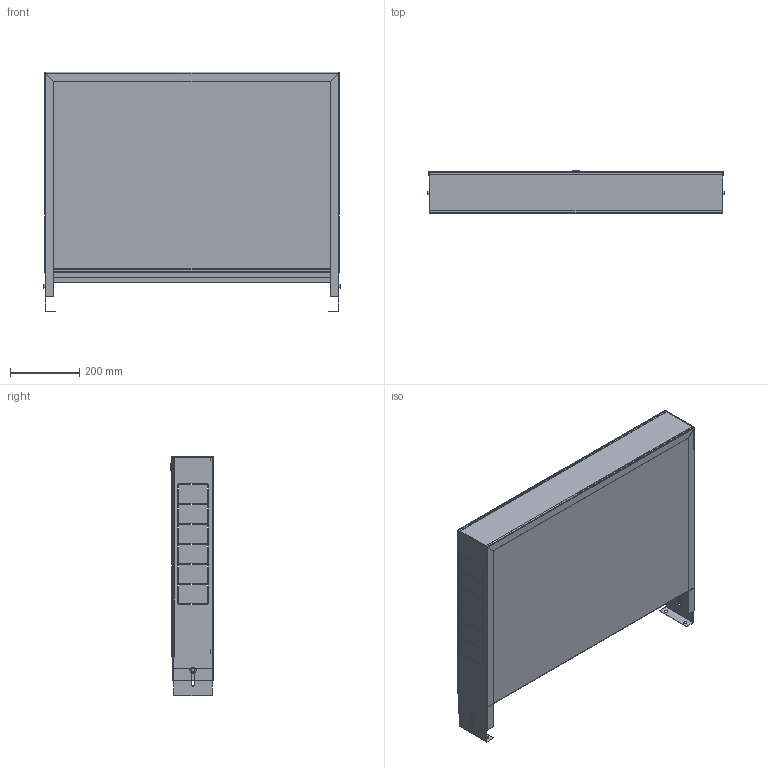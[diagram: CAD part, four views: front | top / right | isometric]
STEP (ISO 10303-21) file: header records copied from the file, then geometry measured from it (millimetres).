
FILE_DESCRIPTION(('TFLEX Exchange Step'),'2;1');
FILE_NAME('Manifold cabinet VTc.541.0.04 Valtec.stp', '2023-10-11T13:50:00+03:00',('denis'),('Unknown organisation'),'TFLEX Exchange 2023.0','T-FLEX CAD','Unknown authorisation');
FILE_SCHEMA( ('AUTOMOTIVE_DESIGN { 1 0 10303 214 1 1 1 1 }') );
Length unit declared in the file: millimetre
Products named in the file (1): Nodes
Bounding box: 859 x 124.9 x 695 mm (x, y, z)
Volume: 1161120 mm3; surface area: 2816271.1 mm2
Topology: 9 solids, 10 shells, 504 faces, 1335 edges, 859 vertices
Faces by surface type: plane 372, cylinder 87, cone 31, bspline 12, torus 2
Full cylindrical faces by diameter (mm): 6 x4, 6.4 x2, 7 x2, 10 x5, 12 x1, 16 x1, 18 x2, 20 x2
Entity records: 18079 total; most frequent: CARTESIAN_POINT 5474, ORIENTED_EDGE 2670, DIRECTION 2391, EDGE_CURVE 1335, VECTOR 1009, LINE 1009, VERTEX_POINT 859, AXIS2_PLACEMENT_3D 691
